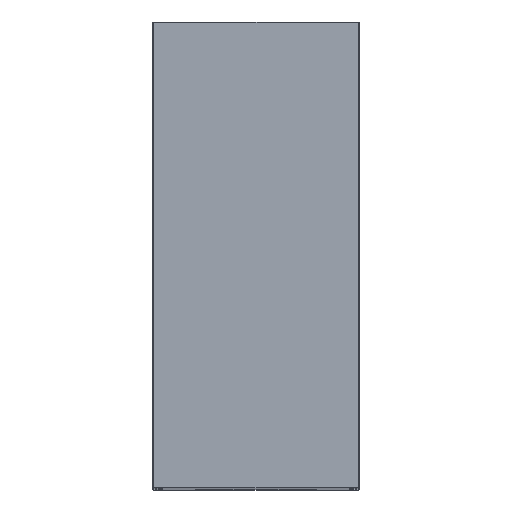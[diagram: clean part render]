
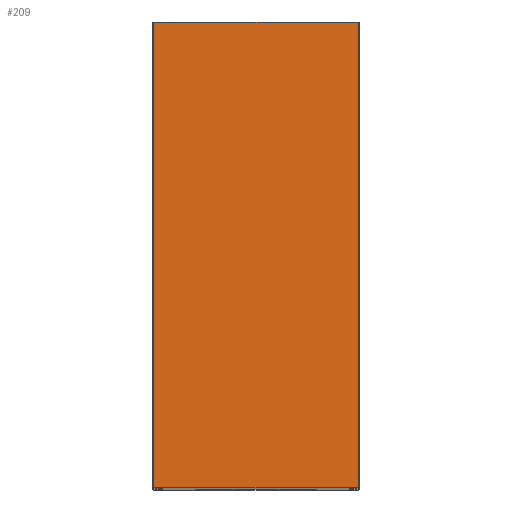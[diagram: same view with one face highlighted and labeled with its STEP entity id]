
A CAD part, top view. The second image highlights one B-rep face of the part: STEP entity #209.
In plain terms, the highlighted planar face has unit normal (0, 0, 1).
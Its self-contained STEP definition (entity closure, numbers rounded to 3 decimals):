
#132 = EDGE_CURVE ( 'NONE', #389, #359, #869, .T. ) ;
#141 = EDGE_CURVE ( 'NONE', #462, #316, #853, .T. ) ;
#165 = EDGE_CURVE ( 'NONE', #316, #389, #959, .T. ) ;
#207 = EDGE_CURVE ( 'NONE', #359, #462, #1120, .T. ) ;
#209 = ADVANCED_FACE ( 'NONE', ( #1522 ), #1079, .T. ) ;
#282 = ORIENTED_EDGE ( 'NONE', *, *, #207, .T. ) ;
#316 = VERTEX_POINT ( 'NONE', #1646 ) ;
#359 = VERTEX_POINT ( 'NONE', #1405 ) ;
#389 = VERTEX_POINT ( 'NONE', #1371 ) ;
#462 = VERTEX_POINT ( 'NONE', #1370 ) ;
#482 = EDGE_LOOP ( 'NONE', ( #487, #666, #282, #652 ) ) ;
#487 = ORIENTED_EDGE ( 'NONE', *, *, #165, .T. ) ;
#652 = ORIENTED_EDGE ( 'NONE', *, *, #141, .T. ) ;
#666 = ORIENTED_EDGE ( 'NONE', *, *, #132, .T. ) ;
#793 = CARTESIAN_POINT ( 'NONE',  ( -11., -25., 65. ) ) ;
#811 = DIRECTION ( 'NONE',  ( 1., 0., 0. ) ) ;
#850 = DIRECTION ( 'NONE',  ( -1., 0., 0. ) ) ;
#851 = CARTESIAN_POINT ( 'NONE',  ( -11., 25., 65. ) ) ;
#853 = LINE ( 'NONE', #851, #1208 ) ;
#869 = LINE ( 'NONE', #793, #1185 ) ;
#887 = CARTESIAN_POINT ( 'NONE',  ( -11., 25., 65. ) ) ;
#896 = DIRECTION ( 'NONE',  ( 0., -1., 0. ) ) ;
#959 = LINE ( 'NONE', #887, #1448 ) ;
#1017 = DIRECTION ( 'NONE',  ( 1., 0., 0. ) ) ;
#1051 = DIRECTION ( 'NONE',  ( 0., 0., 1. ) ) ;
#1078 = CARTESIAN_POINT ( 'NONE',  ( 0., 0., 65. ) ) ;
#1079 = PLANE ( 'NONE',  #1474 ) ;
#1093 = CARTESIAN_POINT ( 'NONE',  ( 11., 25., 65. ) ) ;
#1098 = DIRECTION ( 'NONE',  ( 0., 1., 0. ) ) ;
#1120 = LINE ( 'NONE', #1093, #1507 ) ;
#1185 = VECTOR ( 'NONE', #811, 1000. ) ;
#1208 = VECTOR ( 'NONE', #850, 1000. ) ;
#1370 = CARTESIAN_POINT ( 'NONE',  ( 11., 25., 65. ) ) ;
#1371 = CARTESIAN_POINT ( 'NONE',  ( -11., -25., 65. ) ) ;
#1405 = CARTESIAN_POINT ( 'NONE',  ( 11., -25., 65. ) ) ;
#1448 = VECTOR ( 'NONE', #896, 1000. ) ;
#1474 = AXIS2_PLACEMENT_3D ( 'NONE', #1078, #1051, #1017 ) ;
#1507 = VECTOR ( 'NONE', #1098, 1000. ) ;
#1522 = FACE_OUTER_BOUND ( 'NONE', #482, .T. ) ;
#1646 = CARTESIAN_POINT ( 'NONE',  ( -11., 25., 65. ) ) ;
